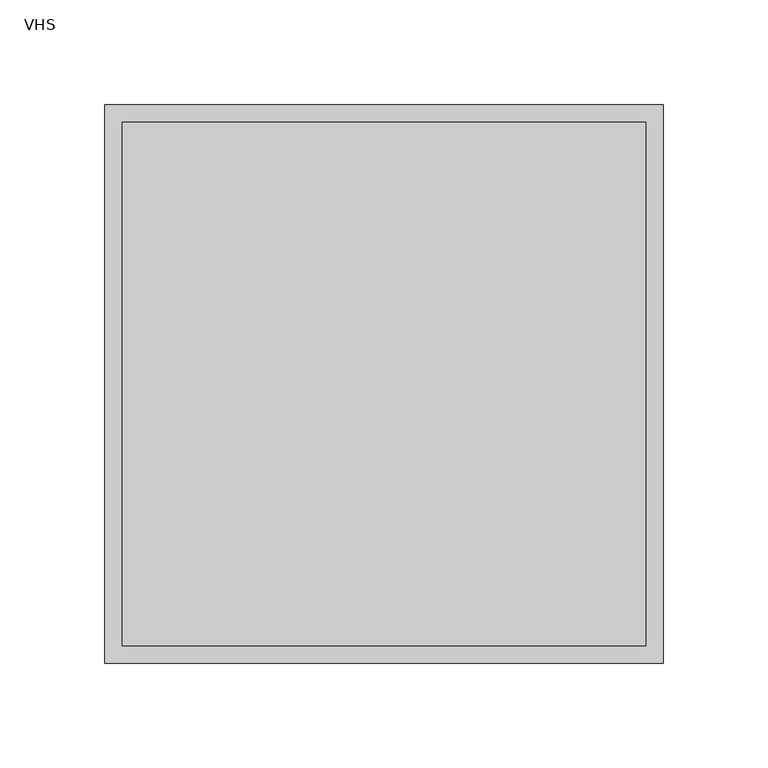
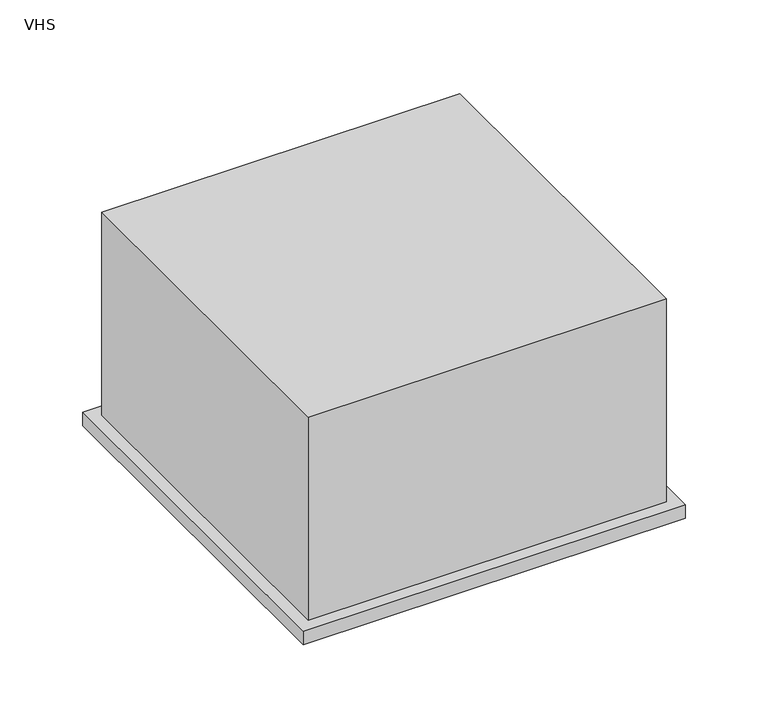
"""IFC4 building model written with IfcOpenShell, lengths in millimetres: air terminal geometry, 031_ユニバーサル形吹出口 : VHS."""

import ifcopenshell
import ifcopenshell.guid

model = None  # the IFC model being written
_history = None  # IfcOwnerHistory: only IFC2X3 demands one
_inside = {}  # id of a spatial element -> (the spatial element, [elements in it])
_under = {}  # id of a project, library or spatial element -> (it, [spatial elements below it])
_declared = {}  # id of a project -> (the project, [libraries it declares])
_typed = {}  # id of a type object -> (the type object, [elements of that type])
_made_of = {}  # id of a material, layer set ... -> (it, [elements and type objects made of it])


def new_model(schema):
    """Start an empty IFC model of exactly this schema.

    Asked for "IFC4X3", IfcOpenShell would pick the latest addendum, in which some entities
    have other attributes; the version numbers below select the first issue.
    IFC2X3 requires an IfcOwnerHistory on every rooted entity: one is made here for all.
    """
    global model, _history
    if schema == "IFC4X3":
        model = ifcopenshell.file(schema_version=(4, 3, 0, 0))
    else:
        model = ifcopenshell.file(schema=schema)
    _inside.clear()
    _under.clear()
    _declared.clear()
    _typed.clear()
    _made_of.clear()
    _history = None
    if model.schema == "IFC2X3":
        org = make("IfcOrganization", Name="unknown")
        user = make(
            "IfcPersonAndOrganization",
            ThePerson=make("IfcPerson", FamilyName="unknown"),
            TheOrganization=org,
        )
        app = make(
            "IfcApplication",
            ApplicationDeveloper=org,
            Version="unknown",
            ApplicationFullName="unknown",
            ApplicationIdentifier="unknown",
        )
        _history = make(
            "IfcOwnerHistory",
            OwningUser=user,
            OwningApplication=app,
            ChangeAction="ADDED",
            CreationDate=0,
        )
    return model


def make(cls, **values):
    """One entity of the class cls with the attributes given. An attribute that is None is left unset."""
    return model.create_entity(
        cls, **{name: value for name, value in values.items() if value is not None}
    )


def rooted(cls, **values):
    """An entity with a GlobalId (a new one), such as an element, a storey or a relation."""
    return make(cls, GlobalId=ifcopenshell.guid.new(), OwnerHistory=_history, **values)


def si_unit(unit_type, name, prefix=None):
    """IfcSIUnit, for example si_unit("LENGTHUNIT", "METRE", prefix="MILLI")."""
    return make("IfcSIUnit", UnitType=unit_type, Prefix=prefix, Name=name)


def assignment(units):
    """IfcUnitAssignment: the units of a project."""
    return None if units is None else make("IfcUnitAssignment", Units=units)


def point(xyz):
    """IfcCartesianPoint."""
    return None if xyz is None else make("IfcCartesianPoint", Coordinates=xyz)


def direction(xyz):
    """IfcDirection."""
    return None if xyz is None else make("IfcDirection", DirectionRatios=xyz)


def frame(location, z_axis=None, x_axis=None):
    """IfcAxis2Placement3D, a coordinate frame: its origin and axes. An axis left out is left unset."""
    return make(
        "IfcAxis2Placement3D",
        Location=point(location),
        Axis=direction(z_axis),
        RefDirection=direction(x_axis),
    )


def origin():
    """The frame at (0, 0, 0) with its axes left unset."""
    return frame((0.0, 0.0, 0.0))


def origin_with_axes():
    """The frame at (0, 0, 0) with the z axis (0, 0, 1) and the x axis (1, 0, 0) written out."""
    return frame((0.0, 0.0, 0.0), z_axis=(0.0, 0.0, 1.0), x_axis=(1.0, 0.0, 0.0))


def place(relative_to, where):
    """IfcLocalPlacement: puts the frame where relative to a parent placement (None: the world)."""
    return make(
        "IfcLocalPlacement", PlacementRelTo=relative_to, RelativePlacement=where
    )


def context(
    kind, dimensions, precision=None, world=None, true_north=None, identifier=None
):
    """IfcGeometricRepresentationContext, for example the 3D "Model" context."""
    return make(
        "IfcGeometricRepresentationContext",
        ContextIdentifier=identifier,
        ContextType=kind,
        CoordinateSpaceDimension=dimensions,
        Precision=precision,
        WorldCoordinateSystem=world,
        TrueNorth=true_north,
    )


def project(units=None, contexts=None):
    """IfcProject with its units and contexts."""
    return rooted(
        "IfcProject",
        Name="project",
        RepresentationContexts=contexts,
        UnitsInContext=assignment(units),
    )


def spatial(cls, under=None, at=None, **own):
    """A site, building, storey or space (cls), placed at a placement, below another one or the project."""
    s = rooted(cls, ObjectPlacement=at, **own)
    if under is not None:
        _under.setdefault(under.id(), (under, []))[1].append(s)
    return s


def polyline(points):
    """IfcPolyline through the points."""
    return make("IfcPolyline", Points=[point(p) for p in points])


def outline(outer, holes=None, kind="AREA"):
    """IfcArbitraryClosedProfileDef: a profile drawn as a closed curve; with holes, ...WithVoids."""
    if holes is None:
        return make("IfcArbitraryClosedProfileDef", ProfileType=kind, OuterCurve=outer)
    return make(
        "IfcArbitraryProfileDefWithVoids",
        ProfileType=kind,
        OuterCurve=outer,
        InnerCurves=holes,
    )


def extrude(swept, where, along, depth):
    """IfcExtrudedAreaSolid: the profile swept, set in the frame where, extruded along a direction by depth."""
    return make(
        "IfcExtrudedAreaSolid",
        SweptArea=swept,
        Position=where,
        ExtrudedDirection=direction(along),
        Depth=depth,
    )


def shape(context_of_items, identifier, shape_type, items):
    """IfcShapeRepresentation: the items that make up one representation, for example the "Body"."""
    return make(
        "IfcShapeRepresentation",
        ContextOfItems=context_of_items,
        RepresentationIdentifier=identifier,
        RepresentationType=shape_type,
        Items=items,
    )


def source(mapping_origin, context_of_items, identifier, shape_type, items):
    """IfcRepresentationMap: a shape defined once, which mapped items show again and again."""
    return make(
        "IfcRepresentationMap",
        MappingOrigin=mapping_origin,
        MappedRepresentation=shape(context_of_items, identifier, shape_type, items),
    )


def transform(
    local_origin,
    x_axis=None,
    y_axis=None,
    z_axis=None,
    scale=None,
    scale2=None,
    scale3=None,
    uniform=True,
):
    """IfcCartesianTransformationOperator3D, or its non-uniform kind. x_axis, y_axis, z_axis: its Axis1, 2, 3."""
    if uniform:
        return make(
            "IfcCartesianTransformationOperator3D",
            Axis1=direction(x_axis),
            Axis2=direction(y_axis),
            LocalOrigin=point(local_origin),
            Scale=scale,
            Axis3=direction(z_axis),
        )
    return make(
        "IfcCartesianTransformationOperator3DnonUniform",
        Axis1=direction(x_axis),
        Axis2=direction(y_axis),
        LocalOrigin=point(local_origin),
        Scale=scale,
        Axis3=direction(z_axis),
        Scale2=scale2,
        Scale3=scale3,
    )


def mapped(mapping_source, mapping_target):
    """IfcMappedItem: shows the shape of a source again, moved by a transform."""
    return make(
        "IfcMappedItem", MappingSource=mapping_source, MappingTarget=mapping_target
    )


def made_of(thing, what):
    """Note that an element or type object is made of a material, layer set ...; save() writes the relation."""
    if what is not None:
        _made_of.setdefault(what.id(), (what, []))[1].append(thing)
    return thing


def element(
    cls,
    number,
    at=None,
    inside=None,
    cuts=None,
    type_object=None,
    material=None,
    context=None,
    identifier="Body",
    shape_type=None,
    held_by="IfcProductDefinitionShape",
    body=None,
    shapes=None,
    **own,
):
    """One element of the class cls, such as IfcWall. Its Tag is "e" and its number.

    at: its placement. inside: the storey or other place that contains it. cuts: it is an
    opening in that element (IfcRelVoidsElement). A single representation is given by context,
    identifier, shape_type and body (its items); several are given by shapes. held_by: the class
    of the entity that holds the representations. save() writes the other relations.
    """
    e = rooted(cls, Tag="e%d" % number, ObjectPlacement=at, **own)
    if body is not None:
        shapes = [shape(context, identifier, shape_type, body)]
    if shapes is not None:
        e.Representation = make(held_by, Representations=shapes)
    if inside is not None:
        _inside.setdefault(inside.id(), (inside, []))[1].append(e)
    if cuts is not None:
        rooted(
            "IfcRelVoidsElement", RelatingBuildingElement=cuts, RelatedOpeningElement=e
        )
    if type_object is not None:
        _typed.setdefault(type_object.id(), (type_object, []))[1].append(e)
    return made_of(e, material)


def aggregate(whole, parts):
    """IfcRelAggregates: a whole, such as a stair, and the parts it consists of."""
    return rooted("IfcRelAggregates", RelatingObject=whole, RelatedObjects=parts)


def save(model, path):
    """Write the relations noted so far, then the file.

    IfcRelAggregates (storeys below a building ...), IfcRelContainedInSpatialStructure (elements
    in a storey), IfcRelDefinesByType, IfcRelAssociatesMaterial and IfcRelDeclares: one each for
    every whole, place, type object, material and project.
    """
    for whole, parts in _under.values():
        aggregate(whole, parts)
    for where, things in _inside.values():
        rooted(
            "IfcRelContainedInSpatialStructure",
            RelatedElements=things,
            RelatingStructure=where,
        )
    for kind, things in _typed.values():
        rooted("IfcRelDefinesByType", RelatedObjects=things, RelatingType=kind)
    for what, things in _made_of.values():
        rooted("IfcRelAssociatesMaterial", RelatedObjects=things, RelatingMaterial=what)
    for by, libraries in _declared.values():
        rooted("IfcRelDeclares", RelatingContext=by, RelatedDefinitions=libraries)
    model.write(path)


def vhs_3de3ffbe(model_context):
    return source(origin(), model_context, "Body", "SweptSolid", [
        extrude(outline(polyline([(125.0, 125.0), (125.0, -125.0), (-125.0, -125.0), (-125.0, 125.0), (125.0, 125.0)])), origin_with_axes(), (0.0, 0.0, 1.0), 150.0),
        extrude(outline(polyline([(133.5, -133.5), (-133.5, -133.5), (-133.5, 133.5), (133.5, 133.5), (133.5, -133.5)]), holes=[polyline([(125.0, -125.0), (125.0, 125.0), (-125.0, 125.0), (-125.0, -125.0), (125.0, -125.0)])]), frame((0.0, 0.0, -10.0), z_axis=(0.0, 0.0, 1.0), x_axis=(1.0, 0.0, 0.0)), (0.0, 0.0, 1.0), 10.0),
    ])


if __name__ == "__main__":
    model = new_model("IFC4")
    model_context = context("Model", 3, world=origin())
    ifc_project = project(units=[si_unit("LENGTHUNIT", "METRE", prefix="MILLI")], contexts=[model_context])
    site = spatial("IfcSite", under=ifc_project)
    building = spatial("IfcBuilding", under=site)
    placement = place(None, origin())
    vhs_shape = vhs_3de3ffbe(model_context)
    element("IfcAirTerminal", 1, ObjectType="031_ユニバーサル形吹出口 : VHS", at=placement, inside=building, context=model_context, shape_type="MappedRepresentation", body=[
        mapped(vhs_shape, transform((0.0, 0.0, 0.0), x_axis=(1.0, 0.0, 0.0), y_axis=(0.0, 1.0, 0.0), z_axis=(0.0, 0.0, 1.0))),
    ])
    save(model, "model.ifc")
